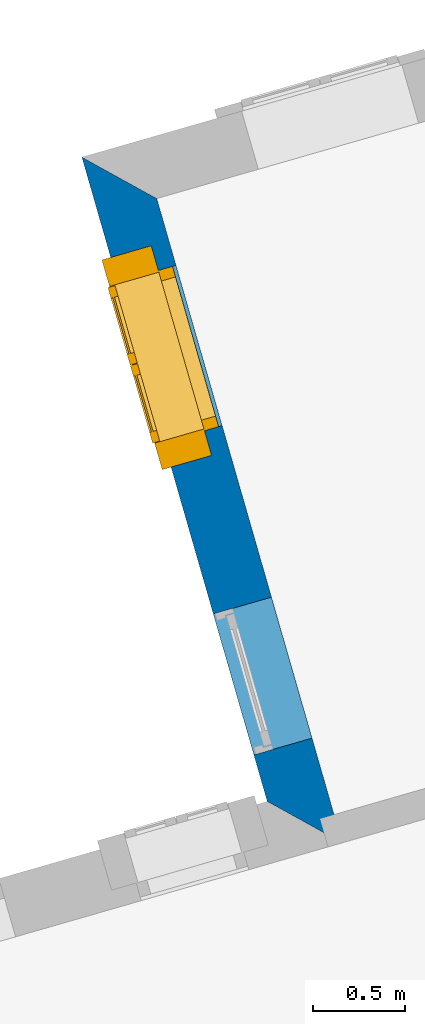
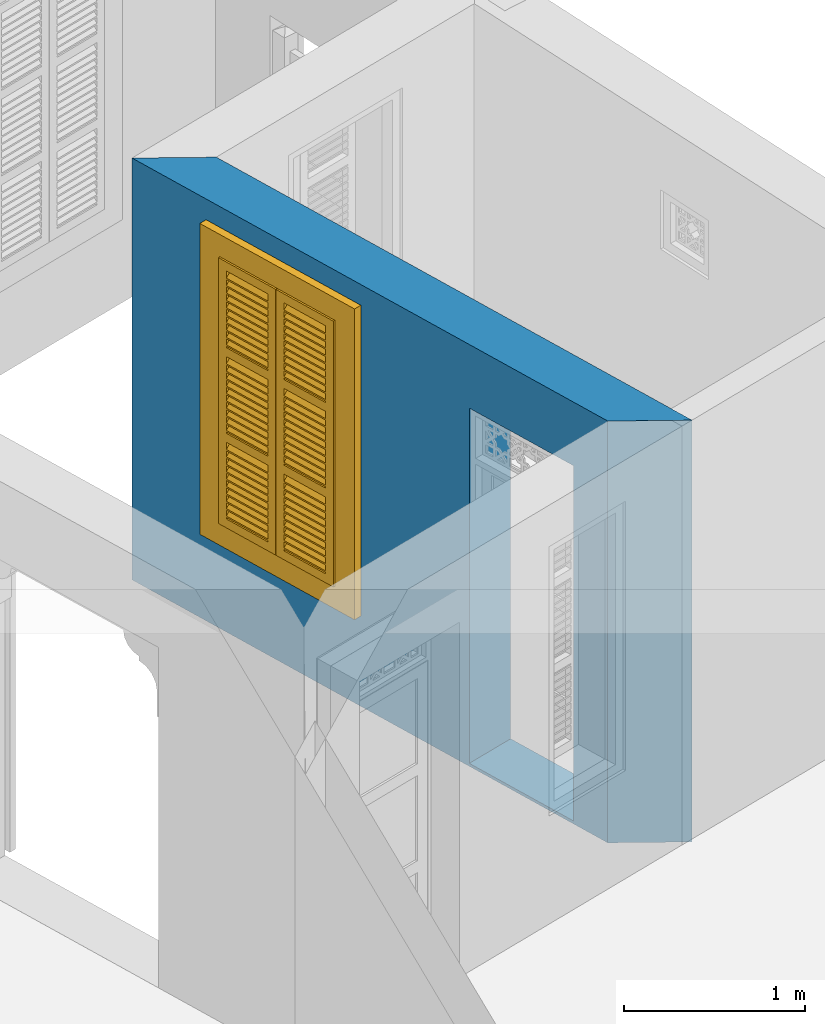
# One storey, part 6 of 16: 1 wall, 1 window, 2 openings.
"""IFC4 building model written with IfcOpenShell, lengths in metres."""

from ifc_helpers import new_model, si_unit, frame, origin, origin_with_axes, place, context, subcontext, project, spatial, polyline, outline, extrude, faceted_brep, source, transform, mapped, material, layer, layer_set, layer_usage, type_object, type_shapes, element, fill, save


model = new_model("IFC4")

# Units and contexts
model_context = context("Model", 3, world=origin_with_axes())
body_context = subcontext(model_context, "Body", "Model", "MODEL_VIEW")
ifc_project = project(units=[si_unit("PLANEANGLEUNIT", "RADIAN"), si_unit("MASSUNIT", "GRAM", prefix="KILO"), si_unit("FORCEUNIT", "NEWTON", prefix="KILO"), si_unit("LENGTHUNIT", "METRE"), si_unit("AREAUNIT", "SQUARE_METRE"), si_unit("VOLUMEUNIT", "CUBIC_METRE")], contexts=[model_context, model_context])

# Site, building, storey
site_placement = place(None, origin_with_axes())
site = spatial("IfcSite", under=ifc_project, at=site_placement, Name="Site plot-9", CompositionType="ELEMENT")
building_placement = place(None, origin_with_axes())
building = spatial("IfcBuilding", under=site, at=building_placement, Name="Building plot-9", CompositionType="ELEMENT")
storey_placement = place(None, origin_with_axes())
storey = spatial("IfcBuildingStorey", under=building, at=storey_placement, Name="plot-9 0", CompositionType="ELEMENT", Elevation=0.0)

# Wall, openings, window
ifc_material = material(Name="Masonry")
ifc_layer = layer(ifc_material, 0.33, ventilated=False)
ifc_layer_set = layer_set([ifc_layer], Name="exterior_0.08_0.25")
ifc_layer_usage = layer_usage(ifc_layer_set, "AXIS2", "POSITIVE", -0.25)
wall_type = type_object("IfcWallType", Name="exterior_0.08_0.25", PredefinedType="SOLIDWALL", material=ifc_layer_set)
wall_placement = place(storey_placement, frame((-15.293038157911, 2.18965634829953, 0.0), z_axis=(0.0, 0.0, 1.0), x_axis=(0.276523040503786, -0.96100728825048, 0.0)))
wall = element("IfcWall", 1, at=wall_placement, inside=storey, type_object=wall_type, material=ifc_layer_usage, Name="exterior", context=body_context, shape_type="SweptSolid", body=[
    extrude(outline(polyline([(0.0800000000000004, 0.0800000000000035), (-0.250000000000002, -0.25), (3.40707004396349, -0.249999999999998), (3.73707004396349, 0.0800000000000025), (0.0800000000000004, 0.0800000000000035)])), origin_with_axes(), (0.0, 0.0, 1.0), 2.85),
])
opening_1_placement = place(wall_placement, frame((0.459267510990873, 0.0, 0.75)))
opening_1 = element("IfcOpeningElement", 2, at=opening_1_placement, cuts=wall, Name="My Opening", ObjectType="Opening", context=body_context, shape_type="SweptSolid", body=[
    extrude(outline(polyline([(0.0, -0.27), (0.91, -0.269999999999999), (0.91, 1.1), (-1.11022302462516e-16, 1.1), (0.0, -0.27)])), origin_with_axes(), (0.0, 0.0, 1.0), 1.82),
])
opening_2_placement = place(wall_placement, frame((2.34280253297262, 0.0, 0.02)))
element("IfcOpeningElement", 3, at=opening_2_placement, cuts=wall, Name="My Opening", ObjectType="Opening", context=body_context, shape_type="SweptSolid", body=[
    extrude(outline(polyline([(0.0, -0.27), (0.8, -0.27), (0.8, 1.1), (0.0, 1.1), (0.0, -0.27)])), origin_with_axes(), (0.0, 0.0, 1.0), 2.4),
])
window_type = type_object("IfcWindowType", Name="shuttered_big", PartitioningType="DOUBLE_PANEL_HORIZONTAL", PredefinedType="NOTDEFINED")
shared_shape = source(origin(), body_context, "Body", "Brep", [
    faceted_brep([(0.074, 0.0, 0.810667), (0.393, 0.0, 0.810667), (0.393, 0.0, 0.800667), (0.074, 0.0, 0.800667), (0.074, -0.04, 0.770667), (0.393, -0.04, 0.770667), (0.393, -0.04, 0.760667), (0.074, -0.04, 0.760667), (0.517, 0.0, 0.232), (0.836, 0.0, 0.232), (0.836, 0.0, 0.222), (0.517, 0.0, 0.222), (0.517, -0.04, 0.192), (0.836, -0.04, 0.192), (0.836, -0.04, 0.182), (0.517, -0.04, 0.182), (0.517, 0.0, 0.532), (0.836, 0.0, 0.532), (0.836, 0.0, 0.522), (0.517, 0.0, 0.522), (0.517, -0.04, 0.492), (0.836, -0.04, 0.492), (0.836, -0.04, 0.482), (0.517, -0.04, 0.482), (0.517, 0.0, 0.482), (0.836, 0.0, 0.482), (0.836, 0.0, 0.472), (0.517, 0.0, 0.472), (0.517, -0.04, 0.442), (0.836, -0.04, 0.442), (0.836, -0.04, 0.432), (0.517, -0.04, 0.432), (0.517, 0.0, 0.582), (0.836, 0.0, 0.582), (0.836, 0.0, 0.572), (0.517, 0.0, 0.572), (0.517, -0.04, 0.542), (0.836, -0.04, 0.542), (0.836, -0.04, 0.532), (0.517, -0.04, 0.532), (0.517, 0.0, 0.182), (0.836, 0.0, 0.182), (0.836, 0.0, 0.172), (0.517, 0.0, 0.172), (0.517, -0.04, 0.142), (0.836, -0.04, 0.142), (0.836, -0.04, 0.132), (0.517, -0.04, 0.132), (0.517, 0.0, 0.382), (0.836, 0.0, 0.382), (0.836, 0.0, 0.372), (0.517, 0.0, 0.372), (0.517, -0.04, 0.342), (0.836, -0.04, 0.342), (0.836, -0.04, 0.332), (0.517, -0.04, 0.332), (0.517, 0.0, 0.432), (0.836, 0.0, 0.432), (0.836, 0.0, 0.422), (0.517, 0.0, 0.422), (0.517, -0.04, 0.392), (0.836, -0.04, 0.392), (0.836, -0.04, 0.382), (0.517, -0.04, 0.382), (0.517, 0.0, 0.132), (0.836, 0.0, 0.132), (0.836, 0.0, 0.122), (0.517, 0.0, 0.122), (0.517, -0.04, 0.092), (0.836, -0.04, 0.092), (0.836, -0.04, 0.082), (0.517, -0.04, 0.082), (0.517, 0.0, 0.282), (0.836, 0.0, 0.282), (0.836, 0.0, 0.272), (0.517, 0.0, 0.272), (0.517, -0.04, 0.242), (0.836, -0.04, 0.242), (0.836, -0.04, 0.232), (0.517, -0.04, 0.232), (0.517, 0.0, 0.332), (0.836, 0.0, 0.332), (0.836, 0.0, 0.322), (0.517, 0.0, 0.322), (0.517, -0.04, 0.292), (0.836, -0.04, 0.292), (0.836, -0.04, 0.282), (0.517, -0.04, 0.282), (0.517, 0.0, 0.810667), (0.836, 0.0, 0.810667), (0.836, 0.0, 0.800667), (0.517, 0.0, 0.800667), (0.517, -0.04, 0.770667), (0.836, -0.04, 0.770667), (0.836, -0.04, 0.760667), (0.517, -0.04, 0.760667), (0.517, 0.0, 1.110667), (0.836, 0.0, 1.110667), (0.836, 0.0, 1.100667), (0.517, 0.0, 1.100667), (0.517, -0.04, 1.070667), (0.836, -0.04, 1.070667), (0.836, -0.04, 1.060667), (0.517, -0.04, 1.060667), (0.517, 0.0, 1.060667), (0.836, 0.0, 1.060667), (0.836, 0.0, 1.050667), (0.517, 0.0, 1.050667), (0.517, -0.04, 1.020667), (0.836, -0.04, 1.020667), (0.836, -0.04, 1.010667), (0.517, -0.04, 1.010667), (0.517, 0.0, 1.160667), (0.836, 0.0, 1.160667), (0.836, 0.0, 1.150667), (0.517, 0.0, 1.150667), (0.517, -0.04, 1.120667), (0.836, -0.04, 1.120667), (0.836, -0.04, 1.110667), (0.517, -0.04, 1.110667), (0.517, 0.0, 0.760667), (0.836, 0.0, 0.760667), (0.836, 0.0, 0.750667), (0.517, 0.0, 0.750667), (0.517, -0.04, 0.720667), (0.836, -0.04, 0.720667), (0.836, -0.04, 0.710667), (0.517, -0.04, 0.710667), (0.517, 0.0, 0.960667), (0.836, 0.0, 0.960667), (0.836, 0.0, 0.950667), (0.517, 0.0, 0.950667), (0.517, -0.04, 0.920667), (0.836, -0.04, 0.920667), (0.836, -0.04, 0.910667), (0.517, -0.04, 0.910667), (0.517, 0.0, 1.010667), (0.836, 0.0, 1.010667), (0.836, 0.0, 1.0), (0.517, 0.0, 1.0), (0.517, -0.04, 0.970667), (0.836, -0.04, 0.970667), (0.836, -0.04, 0.960667), (0.517, -0.04, 0.960667), (0.517, 0.0, 0.710667), (0.836, 0.0, 0.710667), (0.836, 0.0, 0.700667), (0.517, 0.0, 0.700667), (0.517, -0.04, 0.670667), (0.836, -0.04, 0.670667), (0.836, -0.04, 0.660667), (0.517, -0.04, 0.660667), (0.517, 0.0, 0.860667), (0.836, 0.0, 0.860667), (0.836, 0.0, 0.850667), (0.517, 0.0, 0.850667), (0.517, -0.04, 0.820667), (0.836, -0.04, 0.820667), (0.836, -0.04, 0.810667), (0.517, -0.04, 0.810667), (0.517, 0.0, 0.910667), (0.836, 0.0, 0.910667), (0.836, 0.0, 0.900667), (0.517, 0.0, 0.900667), (0.517, -0.04, 0.870667), (0.836, -0.04, 0.870667), (0.836, -0.04, 0.860667), (0.517, -0.04, 0.860667), (0.517, 0.0, 1.389333), (0.836, 0.0, 1.389333), (0.836, 0.0, 1.379333), (0.517, 0.0, 1.379333), (0.517, -0.04, 1.349333), (0.836, -0.04, 1.349333), (0.836, -0.04, 1.339333), (0.517, -0.04, 1.339333), (0.517, 0.0, 1.689333), (0.836, 0.0, 1.689333), (0.836, 0.0, 1.679333), (0.517, 0.0, 1.679333), (0.517, -0.04, 1.649333), (0.836, -0.04, 1.649333), (0.836, -0.04, 1.639333), (0.517, -0.04, 1.639333), (0.517, 0.0, 1.639333), (0.836, 0.0, 1.639333), (0.836, 0.0, 1.629333), (0.517, 0.0, 1.629333), (0.517, -0.04, 1.599333), (0.836, -0.04, 1.599333), (0.836, -0.04, 1.589333), (0.517, -0.04, 1.589333), (0.517, 0.0, 1.739333), (0.836, 0.0, 1.739333), (0.836, 0.0, 1.729333), (0.517, 0.0, 1.729333), (0.517, -0.04, 1.699333), (0.836, -0.04, 1.699333), (0.836, -0.04, 1.689333), (0.517, -0.04, 1.689333), (0.517, 0.0, 1.339333), (0.836, 0.0, 1.339333), (0.836, 0.0, 1.329333), (0.517, 0.0, 1.329333), (0.517, -0.04, 1.299333), (0.836, -0.04, 1.299333), (0.836, -0.04, 1.289333), (0.517, -0.04, 1.289333), (0.517, 0.0, 1.539333), (0.836, 0.0, 1.539333), (0.836, 0.0, 1.529333), (0.517, 0.0, 1.529333), (0.517, -0.04, 1.499333), (0.836, -0.04, 1.499333), (0.836, -0.04, 1.489333), (0.517, -0.04, 1.489333), (0.517, 0.0, 1.589333), (0.836, 0.0, 1.589333), (0.836, 0.0, 1.579333), (0.517, 0.0, 1.579333), (0.517, -0.04, 1.549333), (0.836, -0.04, 1.549333), (0.836, -0.04, 1.539333), (0.517, -0.04, 1.539333), (0.517, 0.0, 1.289333), (0.836, 0.0, 1.289333), (0.836, 0.0, 1.279333), (0.517, 0.0, 1.279333), (0.517, -0.04, 1.249333), (0.836, -0.04, 1.249333), (0.836, -0.04, 1.239333), (0.517, -0.04, 1.239333), (0.517, 0.0, 1.439333), (0.836, 0.0, 1.439333), (0.836, 0.0, 1.429333), (0.517, 0.0, 1.429333), (0.517, -0.04, 1.399333), (0.836, -0.04, 1.399333), (0.836, -0.04, 1.389333), (0.517, -0.04, 1.389333), (0.517, 0.0, 1.489333), (0.836, 0.0, 1.489333), (0.836, 0.0, 1.479333), (0.517, 0.0, 1.479333), (0.517, -0.04, 1.449333), (0.836, -0.04, 1.449333), (0.836, -0.04, 1.439333), (0.517, -0.04, 1.439333), (0.074, 0.0, 0.232), (0.393, 0.0, 0.232), (0.393, 0.0, 0.222), (0.074, 0.0, 0.222), (0.074, -0.04, 0.192), (0.393, -0.04, 0.192), (0.393, -0.04, 0.182), (0.074, -0.04, 0.182), (0.074, 0.0, 0.532), (0.393, 0.0, 0.532), (0.393, 0.0, 0.522), (0.074, 0.0, 0.522), (0.074, -0.04, 0.492), (0.393, -0.04, 0.492), (0.393, -0.04, 0.482), (0.074, -0.04, 0.482), (0.074, 0.0, 0.482), (0.393, 0.0, 0.482), (0.393, 0.0, 0.472), (0.074, 0.0, 0.472), (0.074, -0.04, 0.442), (0.393, -0.04, 0.442), (0.393, -0.04, 0.432), (0.074, -0.04, 0.432), (0.074, 0.0, 0.582), (0.393, 0.0, 0.582), (0.393, 0.0, 0.572), (0.074, 0.0, 0.572), (0.074, -0.04, 0.542), (0.393, -0.04, 0.542), (0.393, -0.04, 0.532), (0.074, -0.04, 0.532), (0.074, 0.0, 0.182), (0.393, 0.0, 0.182), (0.393, 0.0, 0.172), (0.074, 0.0, 0.172), (0.074, -0.04, 0.142), (0.393, -0.04, 0.142), (0.393, -0.04, 0.132), (0.074, -0.04, 0.132), (0.074, 0.0, 0.382), (0.393, 0.0, 0.382), (0.393, 0.0, 0.372), (0.074, 0.0, 0.372), (0.074, -0.04, 0.342), (0.393, -0.04, 0.342), (0.393, -0.04, 0.332), (0.074, -0.04, 0.332), (0.074, 0.0, 0.432), (0.393, 0.0, 0.432), (0.393, 0.0, 0.422), (0.074, 0.0, 0.422), (0.074, -0.04, 0.392), (0.393, -0.04, 0.392), (0.393, -0.04, 0.382), (0.074, -0.04, 0.382), (0.074, 0.0, 0.132), (0.393, 0.0, 0.132), (0.393, 0.0, 0.122), (0.074, 0.0, 0.122), (0.074, -0.04, 0.092), (0.393, -0.04, 0.092), (0.393, -0.04, 0.082), (0.074, -0.04, 0.082), (0.074, 0.0, 0.282), (0.393, 0.0, 0.282), (0.393, 0.0, 0.272), (0.074, 0.0, 0.272), (0.074, -0.04, 0.242), (0.393, -0.04, 0.242), (0.393, -0.04, 0.232), (0.074, -0.04, 0.232), (0.074, 0.0, 0.332), (0.393, 0.0, 0.332), (0.393, 0.0, 0.322), (0.074, 0.0, 0.322), (0.074, -0.04, 0.292), (0.393, -0.04, 0.292), (0.393, -0.04, 0.282), (0.074, -0.04, 0.282), (0.074, 0.0, 1.110667), (0.393, 0.0, 1.110667), (0.393, 0.0, 1.100667), (0.074, 0.0, 1.100667), (0.074, -0.04, 1.070667), (0.393, -0.04, 1.070667), (0.393, -0.04, 1.060667), (0.074, -0.04, 1.060667), (0.074, 0.0, 1.060667), (0.393, 0.0, 1.060667), (0.393, 0.0, 1.050667), (0.074, 0.0, 1.050667), (0.074, -0.04, 1.020667), (0.393, -0.04, 1.020667), (0.393, -0.04, 1.010667), (0.074, -0.04, 1.010667), (0.074, 0.0, 1.160667), (0.393, 0.0, 1.160667), (0.393, 0.0, 1.150667), (0.074, 0.0, 1.150667), (0.074, -0.04, 1.120667), (0.393, -0.04, 1.120667), (0.393, -0.04, 1.110667), (0.074, -0.04, 1.110667), (0.074, 0.0, 0.760667), (0.393, 0.0, 0.760667), (0.393, 0.0, 0.750667), (0.074, 0.0, 0.750667), (0.074, -0.04, 0.720667), (0.393, -0.04, 0.720667), (0.393, -0.04, 0.710667), (0.074, -0.04, 0.710667), (0.074, 0.0, 0.960667), (0.393, 0.0, 0.960667), (0.393, 0.0, 0.950667), (0.074, 0.0, 0.950667), (0.074, -0.04, 0.920667), (0.393, -0.04, 0.920667), (0.393, -0.04, 0.910667), (0.074, -0.04, 0.910667), (0.074, 0.0, 1.010667), (0.393, 0.0, 1.010667), (0.393, 0.0, 1.0), (0.074, 0.0, 1.0), (0.074, -0.04, 0.970667), (0.393, -0.04, 0.970667), (0.393, -0.04, 0.960667), (0.074, -0.04, 0.960667), (0.074, 0.0, 0.710667), (0.393, 0.0, 0.710667), (0.393, 0.0, 0.700667), (0.074, 0.0, 0.700667), (0.074, -0.04, 0.670667), (0.393, -0.04, 0.670667), (0.393, -0.04, 0.660667), (0.074, -0.04, 0.660667), (0.074, 0.0, 0.860667), (0.393, 0.0, 0.860667), (0.393, 0.0, 0.850667), (0.074, 0.0, 0.850667), (0.074, -0.04, 0.820667), (0.393, -0.04, 0.820667), (0.393, -0.04, 0.810667), (0.074, -0.04, 0.810667), (0.074, 0.0, 0.910667), (0.393, 0.0, 0.910667), (0.393, 0.0, 0.900667), (0.074, 0.0, 0.900667), (0.074, -0.04, 0.870667), (0.393, -0.04, 0.870667), (0.393, -0.04, 0.860667), (0.074, -0.04, 0.860667), (0.074, 0.0, 1.389333), (0.393, 0.0, 1.389333), (0.393, 0.0, 1.379333), (0.074, 0.0, 1.379333), (0.074, -0.04, 1.349333), (0.393, -0.04, 1.349333), (0.393, -0.04, 1.339333), (0.074, -0.04, 1.339333), (0.074, 0.0, 1.689333), (0.393, 0.0, 1.689333), (0.393, 0.0, 1.679333), (0.074, 0.0, 1.679333), (0.074, -0.04, 1.649333), (0.393, -0.04, 1.649333), (0.393, -0.04, 1.639333), (0.074, -0.04, 1.639333), (0.074, 0.0, 1.639333), (0.393, 0.0, 1.639333), (0.393, 0.0, 1.629333), (0.074, 0.0, 1.629333), (0.074, -0.04, 1.599333), (0.393, -0.04, 1.599333), (0.393, -0.04, 1.589333), (0.074, -0.04, 1.589333), (0.074, 0.0, 1.739333), (0.393, 0.0, 1.739333), (0.393, 0.0, 1.729333), (0.074, 0.0, 1.729333), (0.074, -0.04, 1.699333), (0.393, -0.04, 1.699333), (0.393, -0.04, 1.689333), (0.074, -0.04, 1.689333), (0.074, 0.0, 1.339333), (0.393, 0.0, 1.339333), (0.393, 0.0, 1.329333), (0.074, 0.0, 1.329333), (0.074, -0.04, 1.299333), (0.393, -0.04, 1.299333), (0.393, -0.04, 1.289333), (0.074, -0.04, 1.289333), (0.074, 0.0, 1.539333), (0.393, 0.0, 1.539333), (0.393, 0.0, 1.529333), (0.074, 0.0, 1.529333), (0.074, -0.04, 1.499333), (0.393, -0.04, 1.499333), (0.393, -0.04, 1.489333), (0.074, -0.04, 1.489333), (0.074, 0.0, 1.589333), (0.393, 0.0, 1.589333), (0.393, 0.0, 1.579333), (0.074, 0.0, 1.579333), (0.074, -0.04, 1.549333), (0.393, -0.04, 1.549333), (0.393, -0.04, 1.539333), (0.074, -0.04, 1.539333), (0.074, 0.0, 1.289333), (0.393, 0.0, 1.289333), (0.393, 0.0, 1.279333), (0.074, 0.0, 1.279333), (0.074, -0.04, 1.249333), (0.393, -0.04, 1.249333), (0.393, -0.04, 1.239333), (0.074, -0.04, 1.239333), (0.074, 0.0, 1.439333), (0.393, 0.0, 1.439333), (0.393, 0.0, 1.429333), (0.074, 0.0, 1.429333), (0.074, -0.04, 1.399333), (0.393, -0.04, 1.399333), (0.393, -0.04, 1.389333), (0.074, -0.04, 1.389333), (0.074, 0.0, 1.489333), (0.393, 0.0, 1.489333), (0.393, 0.0, 1.479333), (0.074, 0.0, 1.479333), (0.074, -0.04, 1.449333), (0.393, -0.04, 1.449333), (0.393, -0.04, 1.439333), (0.074, -0.04, 1.439333), (0.517, -0.04, 0.072), (0.457, -0.04, 0.012), (0.896, -0.04, 0.012), (0.836, -0.04, 0.072), (0.457, -0.04, 0.590667), (0.517, -0.04, 0.590667), (0.457, 0.0, 0.012), (0.896, 0.0, 0.012), (0.836, -0.04, 0.590667), (0.896, -0.04, 0.590667), (0.836, 0.0, 0.072), (0.517, 0.0, 0.072), (0.457, 0.0, 0.590667), (0.517, 0.0, 0.590667), (0.517, -0.04, 0.650667), (0.457, -0.04, 0.650667), (0.896, 0.0, 0.590667), (0.836, 0.0, 0.590667), (0.836, -0.04, 0.650667), (0.896, -0.04, 0.650667), (0.457, 0.0, 0.650667), (0.457, -0.04, 1.169333), (0.517, -0.04, 1.169333), (0.896, 0.0, 0.650667), (0.836, -0.04, 1.169333), (0.896, -0.04, 1.169333), (0.457, 0.0, 1.169333), (0.517, 0.0, 0.650667), (0.836, 0.0, 0.650667), (0.517, 0.0, 1.169333), (0.517, -0.04, 1.229333), (0.457, -0.04, 1.229333), (0.896, 0.0, 1.169333), (0.836, 0.0, 1.169333), (0.836, -0.04, 1.229333), (0.896, -0.04, 1.229333), (0.457, 0.0, 1.229333), (0.517, -0.04, 1.748), (0.457, -0.04, 1.808), (0.896, 0.0, 1.229333), (0.896, -0.04, 1.808), (0.836, -0.04, 1.748), (0.457, 0.0, 1.808), (0.517, 0.0, 1.229333), (0.836, 0.0, 1.229333), (0.517, 0.0, 1.748), (0.896, 0.0, 1.808), (0.836, 0.0, 1.748), (0.074, -0.04, 0.072), (0.014, -0.04, 0.012), (0.453, -0.04, 0.012), (0.393, -0.04, 0.072), (0.014, -0.04, 0.590667), (0.074, -0.04, 0.590667), (0.014, 0.0, 0.012), (0.453, 0.0, 0.012), (0.393, -0.04, 0.590667), (0.453, -0.04, 0.590667), (0.393, 0.0, 0.072), (0.074, 0.0, 0.072), (0.014, 0.0, 0.590667), (0.074, 0.0, 0.590667), (0.074, -0.04, 0.650667), (0.014, -0.04, 0.650667), (0.453, 0.0, 0.590667), (0.393, 0.0, 0.590667), (0.393, -0.04, 0.650667), (0.453, -0.04, 0.650667), (0.014, 0.0, 0.650667), (0.014, -0.04, 1.169333), (0.074, -0.04, 1.169333), (0.453, 0.0, 0.650667), (0.393, -0.04, 1.169333), (0.453, -0.04, 1.169333), (0.014, 0.0, 1.169333), (0.074, 0.0, 0.650667), (0.393, 0.0, 0.650667), (0.074, 0.0, 1.169333), (0.074, -0.04, 1.229333), (0.014, -0.04, 1.229333), (0.453, 0.0, 1.169333), (0.393, 0.0, 1.169333), (0.393, -0.04, 1.229333), (0.453, -0.04, 1.229333), (0.014, 0.0, 1.229333), (0.074, -0.04, 1.748), (0.014, -0.04, 1.808), (0.453, 0.0, 1.229333), (0.453, -0.04, 1.808), (0.393, -0.04, 1.748), (0.014, 0.0, 1.808), (0.074, 0.0, 1.229333), (0.393, 0.0, 1.229333), (0.074, 0.0, 1.748), (0.453, 0.0, 1.808), (0.393, 0.0, 1.748), (0.0, 0.33, 1.82), (0.91, 0.33, 1.82), (0.85, 0.33, 1.76), (0.06, 0.33, 1.76), (1.05, -0.03, 1.96), (1.05, 0.25, 1.96), (-0.14, 0.25, 1.96), (-0.14, -0.03, 1.96), (0.0, 0.25, 1.82), (0.91, 0.25, 1.82), (0.9, 0.25, 1.81), (0.01, 0.25, 1.81), (0.85, 0.33, 0.06), (0.91, 0.33, 0.0), (0.85, 0.25, 1.76), (0.06, 0.25, 1.76), (0.0, 0.33, 0.0), (0.06, 0.33, 0.06), (0.0, 0.25, 0.0), (0.910046, 0.25, 1.82), (0.91, 0.25, 0.0), (0.85, 0.25, 0.06), (0.06, 0.25, 0.06), (0.9, 0.25, 0.01), (0.9, -0.03, 0.01), (0.9, -0.03, 1.81), (0.01, -0.03, 0.01), (-0.14, -0.03, -0.14), (1.05, -0.03, -0.14), (0.01, -0.03, 1.81), (0.01, 0.25, 0.01), (1.05, 0.25, -0.14), (-0.14, 0.25, -0.14)], [[[0, 1, 2, 3]], [[1, 0, 4, 5]], [[2, 1, 5, 6]], [[6, 7, 3, 2]], [[7, 4, 0, 3]], [[5, 4, 7, 6]], [[8, 9, 10, 11]], [[12, 13, 9, 8]], [[13, 14, 10, 9]], [[14, 15, 11, 10]], [[15, 12, 8, 11]], [[13, 12, 15, 14]], [[16, 17, 18, 19]], [[20, 21, 17, 16]], [[21, 22, 18, 17]], [[22, 23, 19, 18]], [[23, 20, 16, 19]], [[21, 20, 23, 22]], [[24, 25, 26, 27]], [[28, 29, 25, 24]], [[29, 30, 26, 25]], [[30, 31, 27, 26]], [[31, 28, 24, 27]], [[29, 28, 31, 30]], [[32, 33, 34, 35]], [[36, 37, 33, 32]], [[37, 38, 34, 33]], [[38, 39, 35, 34]], [[39, 36, 32, 35]], [[37, 36, 39, 38]], [[40, 41, 42, 43]], [[44, 45, 41, 40]], [[45, 46, 42, 41]], [[46, 47, 43, 42]], [[47, 44, 40, 43]], [[45, 44, 47, 46]], [[48, 49, 50, 51]], [[52, 53, 49, 48]], [[53, 54, 50, 49]], [[54, 55, 51, 50]], [[55, 52, 48, 51]], [[53, 52, 55, 54]], [[56, 57, 58, 59]], [[60, 61, 57, 56]], [[61, 62, 58, 57]], [[62, 63, 59, 58]], [[63, 60, 56, 59]], [[61, 60, 63, 62]], [[64, 65, 66, 67]], [[68, 69, 65, 64]], [[69, 70, 66, 65]], [[70, 71, 67, 66]], [[71, 68, 64, 67]], [[69, 68, 71, 70]], [[72, 73, 74, 75]], [[76, 77, 73, 72]], [[77, 78, 74, 73]], [[78, 79, 75, 74]], [[79, 76, 72, 75]], [[77, 76, 79, 78]], [[80, 81, 82, 83]], [[84, 85, 81, 80]], [[85, 86, 82, 81]], [[86, 87, 83, 82]], [[87, 84, 80, 83]], [[85, 84, 87, 86]], [[88, 89, 90, 91]], [[92, 93, 89, 88]], [[93, 94, 90, 89]], [[94, 95, 91, 90]], [[95, 92, 88, 91]], [[93, 92, 95, 94]], [[96, 97, 98, 99]], [[100, 101, 97, 96]], [[101, 102, 98, 97]], [[102, 103, 99, 98]], [[103, 100, 96, 99]], [[101, 100, 103, 102]], [[104, 105, 106, 107]], [[108, 109, 105, 104]], [[109, 110, 106, 105]], [[110, 111, 107, 106]], [[111, 108, 104, 107]], [[109, 108, 111, 110]], [[112, 113, 114, 115]], [[116, 117, 113, 112]], [[117, 118, 114, 113]], [[118, 119, 115, 114]], [[119, 116, 112, 115]], [[117, 116, 119, 118]], [[120, 121, 122, 123]], [[124, 125, 121, 120]], [[125, 126, 122, 121]], [[126, 127, 123, 122]], [[127, 124, 120, 123]], [[125, 124, 127, 126]], [[128, 129, 130, 131]], [[132, 133, 129, 128]], [[133, 134, 130, 129]], [[134, 135, 131, 130]], [[135, 132, 128, 131]], [[133, 132, 135, 134]], [[136, 137, 138, 139]], [[140, 141, 137, 136]], [[141, 142, 138, 137]], [[142, 143, 139, 138]], [[143, 140, 136, 139]], [[141, 140, 143, 142]], [[144, 145, 146, 147]], [[148, 149, 145, 144]], [[149, 150, 146, 145]], [[150, 151, 147, 146]], [[151, 148, 144, 147]], [[149, 148, 151, 150]], [[152, 153, 154, 155]], [[156, 157, 153, 152]], [[157, 158, 154, 153]], [[158, 159, 155, 154]], [[159, 156, 152, 155]], [[157, 156, 159, 158]], [[160, 161, 162, 163]], [[164, 165, 161, 160]], [[165, 166, 162, 161]], [[166, 167, 163, 162]], [[167, 164, 160, 163]], [[165, 164, 167, 166]], [[168, 169, 170, 171]], [[172, 173, 169, 168]], [[173, 174, 170, 169]], [[174, 175, 171, 170]], [[175, 172, 168, 171]], [[173, 172, 175, 174]], [[176, 177, 178, 179]], [[180, 181, 177, 176]], [[181, 182, 178, 177]], [[182, 183, 179, 178]], [[183, 180, 176, 179]], [[181, 180, 183, 182]], [[184, 185, 186, 187]], [[188, 189, 185, 184]], [[189, 190, 186, 185]], [[190, 191, 187, 186]], [[191, 188, 184, 187]], [[189, 188, 191, 190]], [[192, 193, 194, 195]], [[196, 197, 193, 192]], [[197, 198, 194, 193]], [[198, 199, 195, 194]], [[199, 196, 192, 195]], [[197, 196, 199, 198]], [[200, 201, 202, 203]], [[204, 205, 201, 200]], [[205, 206, 202, 201]], [[206, 207, 203, 202]], [[207, 204, 200, 203]], [[205, 204, 207, 206]], [[208, 209, 210, 211]], [[212, 213, 209, 208]], [[213, 214, 210, 209]], [[214, 215, 211, 210]], [[215, 212, 208, 211]], [[213, 212, 215, 214]], [[216, 217, 218, 219]], [[220, 221, 217, 216]], [[221, 222, 218, 217]], [[222, 223, 219, 218]], [[223, 220, 216, 219]], [[221, 220, 223, 222]], [[224, 225, 226, 227]], [[228, 229, 225, 224]], [[229, 230, 226, 225]], [[230, 231, 227, 226]], [[231, 228, 224, 227]], [[229, 228, 231, 230]], [[232, 233, 234, 235]], [[236, 237, 233, 232]], [[237, 238, 234, 233]], [[238, 239, 235, 234]], [[239, 236, 232, 235]], [[237, 236, 239, 238]], [[240, 241, 242, 243]], [[244, 245, 241, 240]], [[245, 246, 242, 241]], [[246, 247, 243, 242]], [[247, 244, 240, 243]], [[245, 244, 247, 246]], [[248, 249, 250, 251]], [[252, 253, 249, 248]], [[253, 254, 250, 249]], [[254, 255, 251, 250]], [[255, 252, 248, 251]], [[253, 252, 255, 254]], [[256, 257, 258, 259]], [[260, 261, 257, 256]], [[261, 262, 258, 257]], [[262, 263, 259, 258]], [[263, 260, 256, 259]], [[261, 260, 263, 262]], [[264, 265, 266, 267]], [[268, 269, 265, 264]], [[269, 270, 266, 265]], [[270, 271, 267, 266]], [[271, 268, 264, 267]], [[269, 268, 271, 270]], [[272, 273, 274, 275]], [[276, 277, 273, 272]], [[277, 278, 274, 273]], [[278, 279, 275, 274]], [[279, 276, 272, 275]], [[277, 276, 279, 278]], [[280, 281, 282, 283]], [[284, 285, 281, 280]], [[285, 286, 282, 281]], [[286, 287, 283, 282]], [[287, 284, 280, 283]], [[285, 284, 287, 286]], [[288, 289, 290, 291]], [[292, 293, 289, 288]], [[293, 294, 290, 289]], [[294, 295, 291, 290]], [[295, 292, 288, 291]], [[293, 292, 295, 294]], [[296, 297, 298, 299]], [[300, 301, 297, 296]], [[301, 302, 298, 297]], [[302, 303, 299, 298]], [[303, 300, 296, 299]], [[301, 300, 303, 302]], [[304, 305, 306, 307]], [[308, 309, 305, 304]], [[309, 310, 306, 305]], [[310, 311, 307, 306]], [[311, 308, 304, 307]], [[309, 308, 311, 310]], [[312, 313, 314, 315]], [[316, 317, 313, 312]], [[317, 318, 314, 313]], [[318, 319, 315, 314]], [[319, 316, 312, 315]], [[317, 316, 319, 318]], [[320, 321, 322, 323]], [[324, 325, 321, 320]], [[325, 326, 322, 321]], [[326, 327, 323, 322]], [[327, 324, 320, 323]], [[325, 324, 327, 326]], [[328, 329, 330, 331]], [[332, 333, 329, 328]], [[333, 334, 330, 329]], [[334, 335, 331, 330]], [[335, 332, 328, 331]], [[333, 332, 335, 334]], [[336, 337, 338, 339]], [[340, 341, 337, 336]], [[341, 342, 338, 337]], [[342, 343, 339, 338]], [[343, 340, 336, 339]], [[341, 340, 343, 342]], [[344, 345, 346, 347]], [[348, 349, 345, 344]], [[349, 350, 346, 345]], [[350, 351, 347, 346]], [[351, 348, 344, 347]], [[349, 348, 351, 350]], [[352, 353, 354, 355]], [[356, 357, 353, 352]], [[357, 358, 354, 353]], [[358, 359, 355, 354]], [[359, 356, 352, 355]], [[357, 356, 359, 358]], [[360, 361, 362, 363]], [[364, 365, 361, 360]], [[365, 366, 362, 361]], [[366, 367, 363, 362]], [[367, 364, 360, 363]], [[366, 365, 364, 367]], [[368, 369, 370, 371]], [[372, 373, 369, 368]], [[373, 374, 370, 369]], [[374, 375, 371, 370]], [[375, 372, 368, 371]], [[373, 372, 375, 374]], [[376, 377, 378, 379]], [[380, 381, 377, 376]], [[381, 382, 378, 377]], [[382, 383, 379, 378]], [[383, 380, 376, 379]], [[381, 380, 383, 382]], [[384, 385, 386, 387]], [[388, 389, 385, 384]], [[389, 390, 386, 385]], [[390, 391, 387, 386]], [[391, 388, 384, 387]], [[389, 388, 391, 390]], [[392, 393, 394, 395]], [[396, 397, 393, 392]], [[397, 398, 394, 393]], [[398, 399, 395, 394]], [[399, 396, 392, 395]], [[397, 396, 399, 398]], [[400, 401, 402, 403]], [[404, 405, 401, 400]], [[405, 406, 402, 401]], [[406, 407, 403, 402]], [[407, 404, 400, 403]], [[405, 404, 407, 406]], [[408, 409, 410, 411]], [[412, 413, 409, 408]], [[413, 414, 410, 409]], [[414, 415, 411, 410]], [[415, 412, 408, 411]], [[414, 413, 412, 415]], [[416, 417, 418, 419]], [[420, 421, 417, 416]], [[421, 422, 418, 417]], [[422, 423, 419, 418]], [[423, 420, 416, 419]], [[421, 420, 423, 422]], [[424, 425, 426, 427]], [[428, 429, 425, 424]], [[429, 430, 426, 425]], [[430, 431, 427, 426]], [[431, 428, 424, 427]], [[429, 428, 431, 430]], [[432, 433, 434, 435]], [[436, 437, 433, 432]], [[437, 438, 434, 433]], [[438, 439, 435, 434]], [[439, 436, 432, 435]], [[437, 436, 439, 438]], [[440, 441, 442, 443]], [[444, 445, 441, 440]], [[445, 446, 442, 441]], [[446, 447, 443, 442]], [[447, 444, 440, 443]], [[445, 444, 447, 446]], [[448, 449, 450, 451]], [[452, 453, 449, 448]], [[453, 454, 450, 449]], [[454, 455, 451, 450]], [[455, 452, 448, 451]], [[453, 452, 455, 454]], [[456, 457, 458, 459]], [[460, 461, 457, 456]], [[461, 462, 458, 457]], [[462, 463, 459, 458]], [[463, 460, 456, 459]], [[461, 460, 463, 462]], [[464, 465, 466, 467]], [[468, 469, 465, 464]], [[469, 470, 466, 465]], [[470, 471, 467, 466]], [[471, 468, 464, 467]], [[469, 468, 471, 470]], [[472, 473, 474, 475]], [[476, 477, 473, 472]], [[477, 478, 474, 473]], [[478, 479, 475, 474]], [[479, 476, 472, 475]], [[477, 476, 479, 478]], [[480, 481, 482, 483]], [[484, 481, 480, 485]], [[486, 487, 482, 481]], [[488, 483, 482, 489]], [[480, 483, 490, 491]], [[486, 481, 484, 492]], [[485, 480, 491, 493]], [[485, 494, 495, 484]], [[486, 491, 490, 487]], [[496, 489, 482, 487]], [[483, 488, 497, 490]], [[498, 488, 489, 499]], [[492, 484, 495, 500]], [[486, 492, 493, 491]], [[488, 485, 493, 497]], [[494, 485, 488, 498]], [[501, 495, 494, 502]], [[490, 497, 496, 487]], [[503, 499, 489, 496]], [[504, 498, 499, 505]], [[500, 495, 501, 506]], [[507, 493, 492, 500]], [[493, 507, 508, 497]], [[494, 498, 508, 507]], [[502, 494, 507, 509]], [[502, 510, 511, 501]], [[497, 508, 503, 496]], [[512, 505, 499, 503]], [[498, 504, 513, 508]], [[514, 504, 505, 515]], [[506, 501, 511, 516]], [[500, 506, 509, 507]], [[504, 502, 509, 513]], [[510, 502, 504, 514]], [[510, 517, 518, 511]], [[508, 513, 512, 503]], [[519, 515, 505, 512]], [[515, 520, 521, 514]], [[516, 511, 518, 522]], [[523, 509, 506, 516]], [[509, 523, 524, 513]], [[510, 514, 524, 523]], [[517, 510, 523, 525]], [[518, 517, 521, 520]], [[513, 524, 519, 512]], [[526, 520, 515, 519]], [[514, 521, 527, 524]], [[522, 518, 520, 526]], [[525, 523, 516, 522]], [[521, 517, 525, 527]], [[526, 519, 524, 527]], [[525, 522, 526, 527]], [[528, 529, 530, 531]], [[532, 529, 528, 533]], [[534, 535, 530, 529]], [[536, 531, 530, 537]], [[528, 531, 538, 539]], [[534, 529, 532, 540]], [[533, 528, 539, 541]], [[533, 542, 543, 532]], [[534, 539, 538, 535]], [[544, 537, 530, 535]], [[531, 536, 545, 538]], [[546, 536, 537, 547]], [[540, 532, 543, 548]], [[534, 540, 541, 539]], [[536, 533, 541, 545]], [[542, 533, 536, 546]], [[549, 543, 542, 550]], [[538, 545, 544, 535]], [[551, 547, 537, 544]], [[552, 546, 547, 553]], [[548, 543, 549, 554]], [[555, 541, 540, 548]], [[541, 555, 556, 545]], [[542, 546, 556, 555]], [[550, 542, 555, 557]], [[550, 558, 559, 549]], [[545, 556, 551, 544]], [[560, 553, 547, 551]], [[546, 552, 561, 556]], [[562, 552, 553, 563]], [[554, 549, 559, 564]], [[548, 554, 557, 555]], [[552, 550, 557, 561]], [[558, 550, 552, 562]], [[558, 565, 566, 559]], [[556, 561, 560, 551]], [[567, 563, 553, 560]], [[563, 568, 569, 562]], [[564, 559, 566, 570]], [[571, 557, 554, 564]], [[557, 571, 572, 561]], [[558, 562, 572, 571]], [[565, 558, 571, 573]], [[566, 565, 569, 568]], [[561, 572, 567, 560]], [[574, 568, 563, 567]], [[562, 569, 575, 572]], [[570, 566, 568, 574]], [[573, 571, 564, 570]], [[569, 565, 573, 575]], [[574, 567, 572, 575]], [[573, 570, 574, 575]], [[576, 577, 578, 579]], [[580, 581, 582, 583]], [[576, 584, 585, 577]], [[582, 581, 586, 587]], [[588, 578, 577, 589]], [[579, 578, 590, 591]], [[592, 576, 579, 593]], [[576, 592, 594, 584]], [[595, 584, 591, 590]], [[596, 585, 595]], [[595, 590, 597]], [[595, 597, 596]], [[589, 577, 585, 596]], [[578, 588, 597, 590]], [[589, 592, 593, 588]], [[593, 579, 591, 598]], [[592, 589, 596, 594]], [[598, 591, 584, 594]], [[594, 596, 597, 598]], [[588, 593, 598, 597]], [[599, 600, 601, 586]], [[602, 603, 604, 600]], [[601, 605, 587, 586]], [[600, 599, 606, 602]], [[607, 604, 603, 608]], [[599, 607, 608, 606]], [[605, 602, 606, 587]], [[602, 605, 583, 603]], [[600, 604, 580, 601]], [[580, 583, 605, 601]], [[606, 608, 582, 587]], [[599, 586, 581, 607]], [[582, 608, 603, 583]], [[580, 604, 607, 581]]]),
])
type_shapes(window_type, [shared_shape])
window_placement = place(storey_placement, frame((-15.4255120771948, 1.67363570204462, 0.75), z_axis=(0.0, 0.0, 1.0), x_axis=(0.251635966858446, -0.874516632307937, 0.0)))
window = element("IfcWindow", 4, at=window_placement, inside=storey, type_object=window_type, Name="bedroom sahn window", OverallHeight=1.82, OverallWidth=0.91, context=body_context, shape_type="MappedRepresentation", body=[
    mapped(shared_shape, transform((0.0, 0.0, 0.0), scale=1.0)),
])
fill(opening_1, window)

save(model, "model.ifc")
